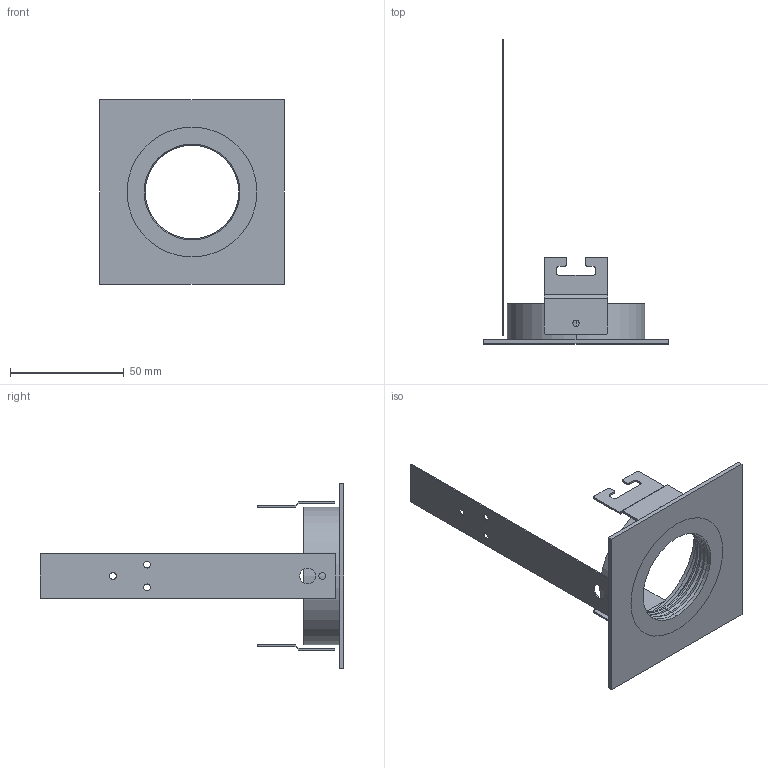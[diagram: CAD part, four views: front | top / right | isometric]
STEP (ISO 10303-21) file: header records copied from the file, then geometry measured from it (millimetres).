
FILE_DESCRIPTION (( 'STEP AP203' ), '1' );
FILE_NAME ('SD-802_STEP.STEP', '2015-12-09T09:21:07', ( 'admin' ), ( '' ), 'SwSTEP 2.0', 'SolidWorks 2015', '' );
FILE_SCHEMA (( 'CONFIG_CONTROL_DESIGN' ));
Length unit declared in the file: millimetre
Products named in the file (2): SD-802_STEP
Bounding box: 81 x 133.5 x 81 mm (x, y, z)
Volume: 24672.4 mm3; surface area: 31316.6 mm2
Topology: 6 solids, 6 shells, 138 faces, 350 edges, 228 vertices
Faces by surface type: cylinder 66, plane 56, bspline 10, cone 6
Entity records: 4513 total; most frequent: CARTESIAN_POINT 922, DIRECTION 748, ORIENTED_EDGE 700, EDGE_CURVE 350, AXIS2_PLACEMENT_3D 278, VERTEX_POINT 228, VECTOR 192, LINE 192
